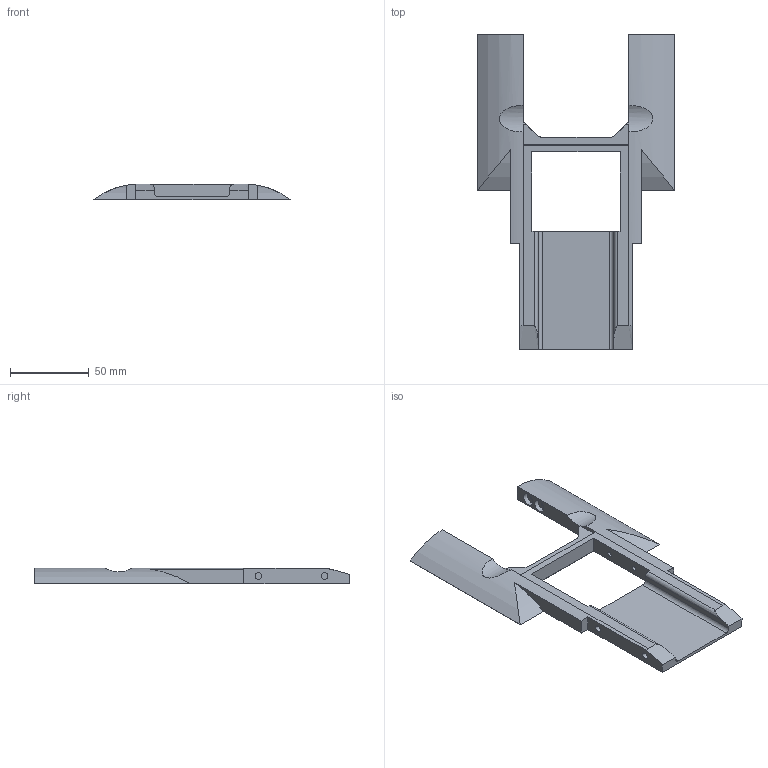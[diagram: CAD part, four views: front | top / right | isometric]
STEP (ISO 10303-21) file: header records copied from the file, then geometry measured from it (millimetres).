
FILE_DESCRIPTION(/* description */ (''),/* implementation_level */ '2;1');
FILE_NAME(/* name */ '1-06-1 Top front.step',/* time_stamp */ '2025-05-10T21:33:41+02:00',/* author */ (''),/* organization */ (''),/* preprocessor_version */ 'ST-DEVELOPER v20.1',/* originating_system */ 'Autodesk Translation Framework v14.4.0.0',/* authorisation */ '');
FILE_SCHEMA (('AUTOMOTIVE_DESIGN { 1 0 10303 214 3 1 1 }'));
Length unit declared in the file: millimetre
Products named in the file (1): 1-06-1 Top front
Bounding box: 125 x 199.9 x 10 mm (x, y, z)
Volume: 73041.3 mm3; surface area: 35991.4 mm2
Topology: 1 solids, 1 shells, 167 faces, 400 edges, 266 vertices
Faces by surface type: plane 117, cylinder 48, cone 2
Full cylindrical faces by diameter (mm): 3.2 x20, 4.1 x8, 8.1 x4
Entity records: 5002 total; most frequent: CARTESIAN_POINT 948, DIRECTION 820, ORIENTED_EDGE 800, EDGE_CURVE 400, LINE 288, VECTOR 288, VERTEX_POINT 266, AXIS2_PLACEMENT_3D 266
